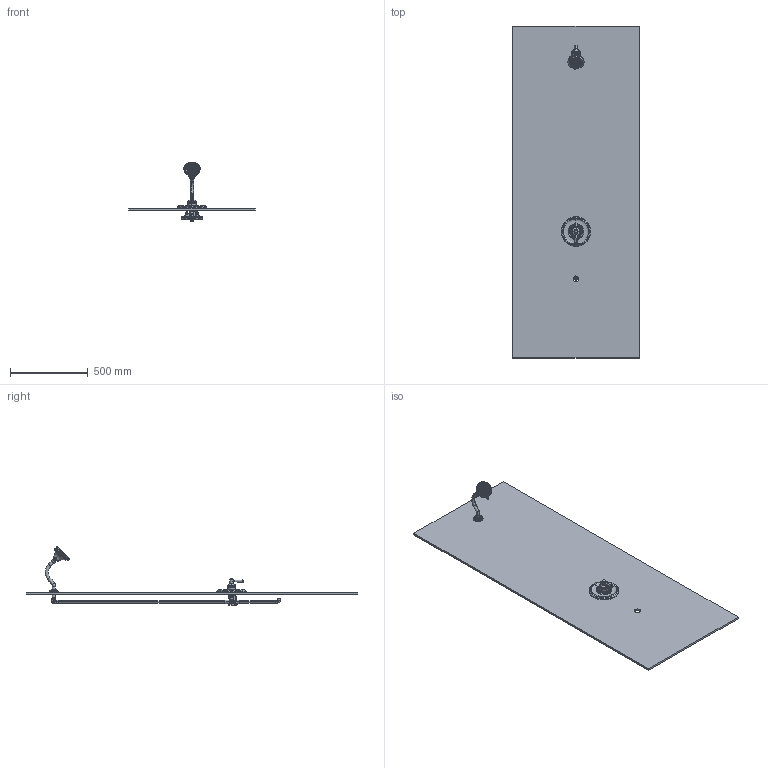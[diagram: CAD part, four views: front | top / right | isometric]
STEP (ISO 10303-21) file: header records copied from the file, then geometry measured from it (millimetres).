
FILE_DESCRIPTION (( 'STEP AP214' ), '1' );
FILE_NAME ('5891TRM.STEP', '2026-01-06T01:44:12', ( '' ), ( '' ), 'SwSTEP 2.0', 'SolidWorks 2023', '' );
FILE_SCHEMA (( 'AUTOMOTIVE_DESIGN' ));
Length unit declared in the file: inch
Products named in the file (1): 5891TRM
Bounding box: 812.8 x 2133.6 x 380.93 mm (x, y, z)
Surface area: 3764929 mm2 (no closed solid volume)
Topology: 0 solids, 137 shells, 540 faces, 2912 edges, 2442 vertices
Faces by surface type: cylinder 148, plane 120, bspline 102, torus 87, cone 78, sphere 5
Entity records: 53242 total; most frequent: CARTESIAN_POINT 32498, DIRECTION 3979, ORIENTED_EDGE 3642, EDGE_CURVE 2907, VERTEX_POINT 2442, AXIS2_PLACEMENT_3D 1636, CIRCLE 1197, B_SPLINE_CURVE_WITH_KNOTS 855
